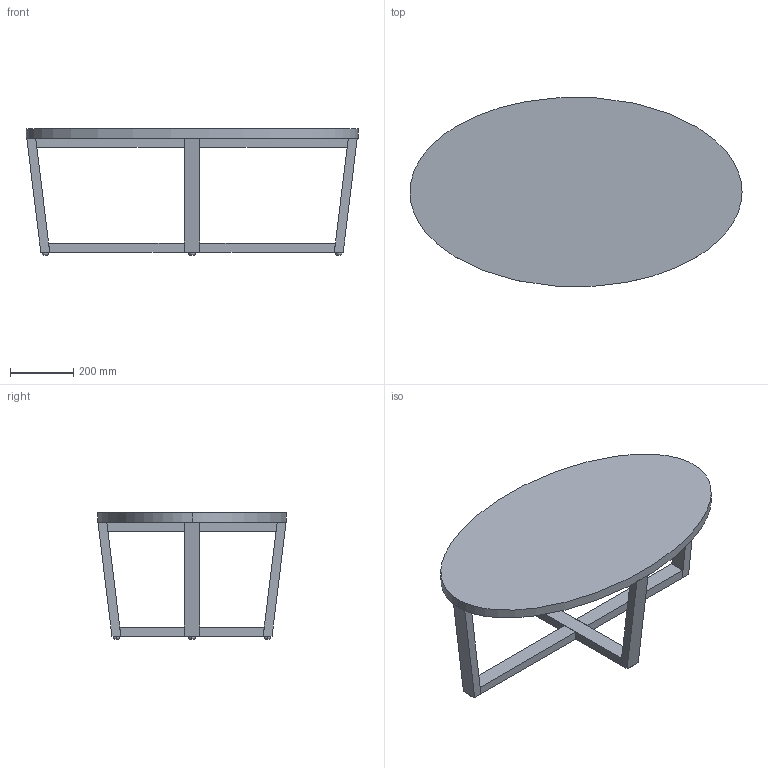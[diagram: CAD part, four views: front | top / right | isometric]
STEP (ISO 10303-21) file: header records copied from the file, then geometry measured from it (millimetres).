
FILE_DESCRIPTION(/* description */ (''),/* implementation_level */ '2;1');
FILE_NAME(/* name */ 'KINOSH~1',/* time_stamp */ '2019-07-24T09:41:03+09:00',/* author */ (''),/* organization */ (''),/* preprocessor_version */ 'ST-DEVELOPER v15',/* originating_system */ '',/* authorisation */ '');
FILE_SCHEMA (('AUTOMOTIVE_DESIGN'));
Length unit declared in the file: millimetre
Products named in the file (1): Document
Bounding box: 1050 x 596.84 x 400 mm (x, y, z)
Volume: 20793739.9 mm3; surface area: 1759786.3 mm2
Topology: 11 solids, 15 shells, 72 faces, 150 edges, 96 vertices
Faces by surface type: plane 62, bspline 10
Entity records: 1929 total; most frequent: CARTESIAN_POINT 821, ORIENTED_EDGE 276, EDGE_CURVE 142, B_SPLINE_CURVE_WITH_KNOTS 120, VERTEX_POINT 96, ADVANCED_FACE 72, FACE_OUTER_BOUND 72, EDGE_LOOP 72
